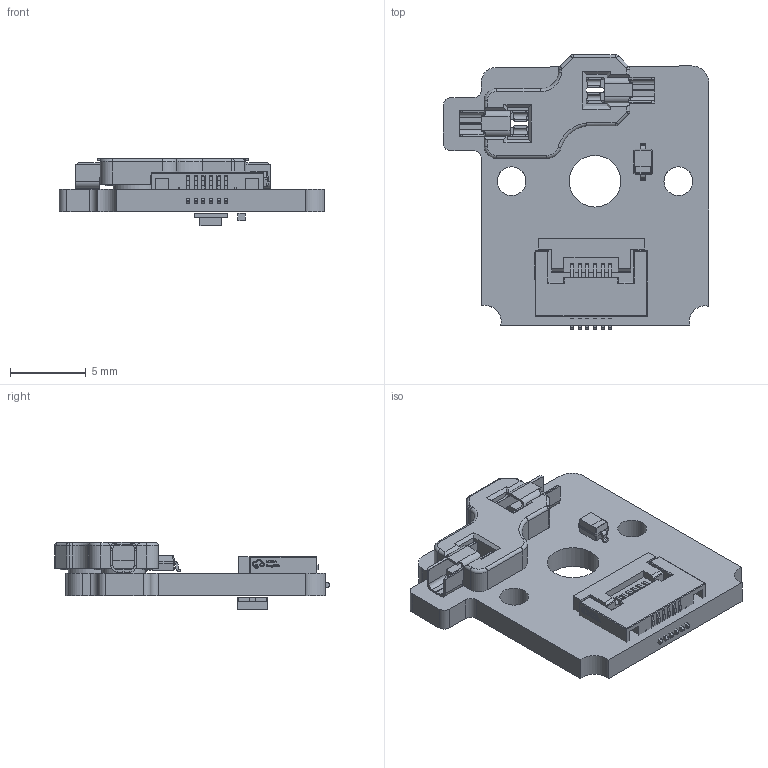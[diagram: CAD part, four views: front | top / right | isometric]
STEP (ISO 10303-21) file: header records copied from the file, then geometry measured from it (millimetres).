
FILE_DESCRIPTION(('KiCad electronic assembly'),'2;1');
FILE_NAME('AdafruitNeoKeyChocSocketBreakout.step','2026-10-03T09:46:56', ('Pcbnew'),('Kicad'),'Open CASCADE STEP processor 7.9', 'KiCad to STEP converter','Unknown');
FILE_SCHEMA(('AUTOMOTIVE_DESIGN { 1 0 10303 214 1 1 1 1 }'));
Length unit declared in the file: millimetre
Products named in the file (19): AdafruitNeoKeyChocSocketBreakout 1; D_SOD-323; FPC-SMD_6P-P0.50_HC-FPC-0.5-6P-FH20; HS_CPG135001S30_Choc; pin; socket; LED_WS2812B-2020_2.2x2.0x0.84mm; substrate; optical encapsulation; solder terminal; IC depiction; red die depiction; green die depiction; blue die depiction; C_0402_1005Metric; AdafruitNeoKeyChocSocketBreakout_PCB
Assembly tree (19 placements, depth 3):
  AdafruitNeoKeyChocSocketBreakout 1
    D_SOD-323
    FPC-SMD_6P-P0.50_HC-FPC-0.5-6P-FH20
    HS_CPG135001S30_Choc
      pin  x2
      socket
    LED_WS2812B-2020_2.2x2.0x0.84mm
      substrate
      optical encapsulation
      solder terminal
      solder terminal
      solder terminal
      solder terminal
      IC depiction
      red die depiction
      green die depiction
      blue die depiction
    C_0402_1005Metric
    AdafruitNeoKeyChocSocketBreakout_PCB
Bounding box: 17.5 x 18.12 x 4.48 mm (x, y, z)
Volume: 481 mm3; surface area: 1231.1 mm2
Topology: 26 solids, 26 shells, 1050 faces, 2762 edges, 1777 vertices
Faces by surface type: plane 702, cylinder 170, bspline 158, torus 10, cone 10
Full cylindrical faces by diameter (mm): 1.9 x2, 2.9 x2, 3 x2, 3.4 x1
Entity records: 35130 total; most frequent: CARTESIAN_POINT 7045, ORIENTED_EDGE 5052, DIRECTION 4227, EDGE_CURVE 2526, LINE 1937, VECTOR 1937, VERTEX_POINT 1631, AXIS2_PLACEMENT_3D 1145
